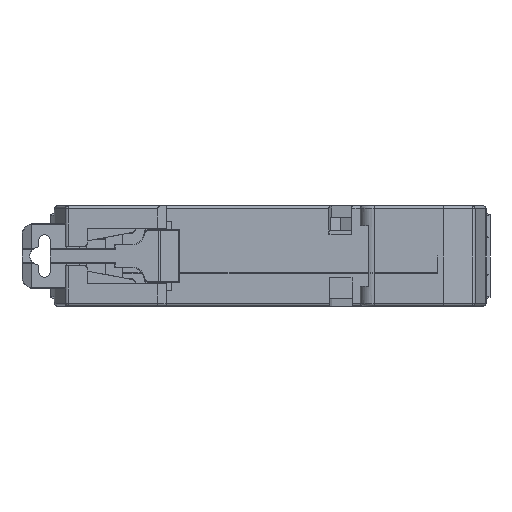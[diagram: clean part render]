
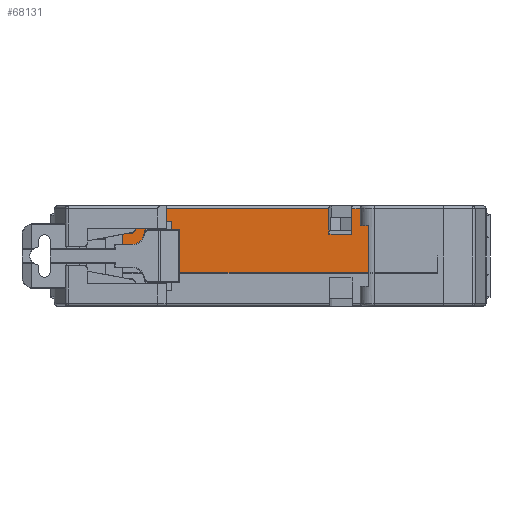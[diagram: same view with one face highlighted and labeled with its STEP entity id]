
A CAD part, front view. The second image highlights one B-rep face of the part: STEP entity #68131.
In plain terms, the highlighted planar face has unit normal (0, -1, 0).
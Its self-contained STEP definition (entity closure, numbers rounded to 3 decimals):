
#17442=DIRECTION('',(-1.,0.,0.));
#17443=VECTOR('',#17442,35.);
#17444=CARTESIAN_POINT('',(17.5,-46.,5.9));
#17445=LINE('',#17444,#17443);
#17558=DIRECTION('',(-1.,0.,0.));
#17559=VECTOR('',#17558,3.533);
#17560=CARTESIAN_POINT('',(-17.5,-46.,15.1));
#17561=LINE('',#17560,#17559);
#17562=CARTESIAN_POINT('',(-21.033,-46.,14.1));
#17563=DIRECTION('',(0.,1.,0.));
#17564=DIRECTION('',(-0.966,0.,0.259));
#17565=AXIS2_PLACEMENT_3D('',#17562,#17563,#17564);
#17567=DIRECTION('',(-0.259,0.,-0.966));
#17568=VECTOR('',#17567,1.943);
#17569=CARTESIAN_POINT('',(-21.999,-46.,
14.359));
#17570=LINE('',#17569,#17568);
#17571=CARTESIAN_POINT('',(-24.433,-46.,13.));
#17572=DIRECTION('',(0.,-1.,0.));
#17573=DIRECTION('',(0.,0.,-1.));
#17574=AXIS2_PLACEMENT_3D('',#17571,#17572,#17573);
#17576=DIRECTION('',(-1.,0.,0.));
#17577=VECTOR('',#17576,1.787);
#17578=CARTESIAN_POINT('',(-24.433,-46.,11.));
#17579=LINE('',#17578,#17577);
#17580=DIRECTION('',(0.,0.,1.));
#17581=VECTOR('',#17580,1.764);
#17582=CARTESIAN_POINT('',(-26.22,-46.,11.));
#17583=LINE('',#17582,#17581);
#17584=DIRECTION('',(0.983,0.,0.186));
#17585=VECTOR('',#17584,0.733);
#17586=CARTESIAN_POINT('',(-26.22,-46.,12.764));
#17587=LINE('',#17586,#17585);
#17588=DIRECTION('',(1.,0.,0.));
#17589=VECTOR('',#17588,0.668);
#17590=CARTESIAN_POINT('',(-25.5,-46.,12.9));
#17591=LINE('',#17590,#17589);
#17592=CARTESIAN_POINT('',(-24.832,-46.,13.9));
#17593=DIRECTION('',(0.,1.,0.));
#17594=DIRECTION('',(0.966,0.,-0.259));
#17595=AXIS2_PLACEMENT_3D('',#17592,#17593,#17594);
#17597=DIRECTION('',(0.259,0.,0.966));
#17598=VECTOR('',#17597,2.903);
#17599=CARTESIAN_POINT('',(-23.866,-46.,
13.641));
#17600=LINE('',#17599,#17598);
#17601=DIRECTION('',(-0.819,0.,-0.574));
#17602=VECTOR('',#17601,0.421);
#17603=CARTESIAN_POINT('',(-22.77,-46.,16.687));
#17604=LINE('',#17603,#17602);
#17605=DIRECTION('',(-0.921,0.,0.391));
#17606=VECTOR('',#17605,0.782);
#17607=CARTESIAN_POINT('',(-22.05,-46.,16.381));
#17608=LINE('',#17607,#17606);
#17609=DIRECTION('',(0.,0.,1.));
#17610=VECTOR('',#17609,1.081);
#17611=CARTESIAN_POINT('',(-22.05,-46.,15.3));
#17612=LINE('',#17611,#17610);
#17613=DIRECTION('',(-1.,0.,0.));
#17614=VECTOR('',#17613,2.4);
#17615=CARTESIAN_POINT('',(-19.65,-46.,15.3));
#17616=LINE('',#17615,#17614);
#17617=DIRECTION('',(1.,0.,0.));
#17618=VECTOR('',#17617,28.932);
#17619=CARTESIAN_POINT('',(-18.5,-46.,17.3));
#17620=LINE('',#17619,#17618);
#17621=DIRECTION('',(0.,0.,-1.));
#17622=VECTOR('',#17621,4.5);
#17623=CARTESIAN_POINT('',(10.432,-46.,17.3));
#17624=LINE('',#17623,#17622);
#17625=DIRECTION('',(1.,0.,0.));
#17626=VECTOR('',#17625,4.062);
#17627=CARTESIAN_POINT('',(10.432,-46.,12.8));
#17628=LINE('',#17627,#17626);
#17629=DIRECTION('',(0.,0.,-1.));
#17630=VECTOR('',#17629,4.5);
#17631=CARTESIAN_POINT('',(14.494,-46.,17.3));
#17632=LINE('',#17631,#17630);
#17633=DIRECTION('',(1.,0.,0.));
#17634=VECTOR('',#17633,3.006);
#17635=CARTESIAN_POINT('',(14.494,-46.,17.3));
#17636=LINE('',#17635,#17634);
#17637=DIRECTION('',(0.,0.,-1.));
#17638=VECTOR('',#17637,11.4);
#17639=CARTESIAN_POINT('',(17.5,-46.,17.3));
#17640=LINE('',#17639,#17638);
#17641=DIRECTION('',(0.,0.,1.));
#17642=VECTOR('',#17641,9.2);
#17643=CARTESIAN_POINT('',(-17.5,-46.,5.9));
#17644=LINE('',#17643,#17642);
#19620=DIRECTION('',(-0.707,0.,-0.707));
#19621=VECTOR('',#19620,1.626);
#19622=CARTESIAN_POINT('',(-18.5,-46.,16.45));
#19623=LINE('',#19622,#19621);
#19675=CARTESIAN_POINT('',(10.432,-46.,17.3));
#19845=CARTESIAN_POINT('',(14.494,-46.,17.3));
#19953=DIRECTION('',(0.,0.,-1.));
#19954=VECTOR('',#19953,0.85);
#19955=CARTESIAN_POINT('',(-18.5,-46.,17.3));
#19956=LINE('',#19955,#19954);
#41934=CARTESIAN_POINT('',(17.5,-46.,5.9));
#41935=VERTEX_POINT('',#41934);
#42208=CARTESIAN_POINT('',(10.432,-46.,12.8));
#42209=CARTESIAN_POINT('',(14.494,-46.,12.8));
#42210=VERTEX_POINT('',#42208);
#42211=VERTEX_POINT('',#42209);
#42601=VERTEX_POINT('',#19675);
#42602=CARTESIAN_POINT('',(-18.5,-46.,17.3));
#42603=VERTEX_POINT('',#42602);
#42618=VERTEX_POINT('',#19845);
#42622=CARTESIAN_POINT('',(17.5,-46.,17.3));
#42623=VERTEX_POINT('',#42622);
#42713=CARTESIAN_POINT('',(-19.65,-46.,15.3));
#42715=VERTEX_POINT('',#42713);
#42718=CARTESIAN_POINT('',(-18.5,-46.,16.45));
#42719=VERTEX_POINT('',#42718);
#42720=CARTESIAN_POINT('',(-22.05,-46.,15.3));
#42721=VERTEX_POINT('',#42720);
#43012=CARTESIAN_POINT('',(-22.05,-46.,16.381));
#43013=VERTEX_POINT('',#43012);
#43014=CARTESIAN_POINT('',(-22.77,-46.,16.687));
#43015=VERTEX_POINT('',#43014);
#47180=CARTESIAN_POINT('',(-17.5,-46.,15.1));
#47181=CARTESIAN_POINT('',(-21.033,-46.,15.1));
#47182=VERTEX_POINT('',#47180);
#47183=VERTEX_POINT('',#47181);
#47184=CARTESIAN_POINT('',(-21.999,-46.,
14.359));
#47185=CARTESIAN_POINT('',(-22.501,-46.,
12.482));
#47186=VERTEX_POINT('',#47184);
#47187=VERTEX_POINT('',#47185);
#47188=CARTESIAN_POINT('',(-24.433,-46.,11.));
#47189=CARTESIAN_POINT('',(-26.22,-46.,11.));
#47190=VERTEX_POINT('',#47188);
#47191=VERTEX_POINT('',#47189);
#47196=CARTESIAN_POINT('',(-26.22,-46.,12.764));
#47197=CARTESIAN_POINT('',(-25.5,-46.,12.9));
#47198=VERTEX_POINT('',#47196);
#47199=VERTEX_POINT('',#47197);
#47200=CARTESIAN_POINT('',(-24.832,-46.,12.9));
#47201=VERTEX_POINT('',#47200);
#47202=CARTESIAN_POINT('',(-23.866,-46.,
13.641));
#47203=CARTESIAN_POINT('',(-23.115,-46.,
16.445));
#47204=VERTEX_POINT('',#47202);
#47205=VERTEX_POINT('',#47203);
#47214=CARTESIAN_POINT('',(-17.5,-46.,5.9));
#47215=VERTEX_POINT('',#47214);
#68079=CARTESIAN_POINT('',(17.5,-46.,17.8));
#68080=DIRECTION('',(0.,-1.,0.));
#68081=DIRECTION('',(-1.,0.,0.));
#68082=AXIS2_PLACEMENT_3D('',#68079,#68080,#68081);
#68083=PLANE('',#68082);
#68085=ORIENTED_EDGE('',*,*,#68084,.T.);
#68087=ORIENTED_EDGE('',*,*,#68086,.F.);
#68089=ORIENTED_EDGE('',*,*,#68088,.T.);
#68091=ORIENTED_EDGE('',*,*,#68090,.F.);
#68093=ORIENTED_EDGE('',*,*,#68092,.T.);
#68094=ORIENTED_EDGE('',*,*,#67258,.T.);
#68096=ORIENTED_EDGE('',*,*,#68095,.T.);
#68098=ORIENTED_EDGE('',*,*,#68097,.T.);
#68100=ORIENTED_EDGE('',*,*,#68099,.F.);
#68102=ORIENTED_EDGE('',*,*,#68101,.T.);
#68104=ORIENTED_EDGE('',*,*,#68103,.F.);
#68106=ORIENTED_EDGE('',*,*,#68105,.F.);
#68108=ORIENTED_EDGE('',*,*,#68107,.F.);
#68110=ORIENTED_EDGE('',*,*,#68109,.F.);
#68112=ORIENTED_EDGE('',*,*,#68111,.F.);
#68114=ORIENTED_EDGE('',*,*,#68113,.F.);
#68116=ORIENTED_EDGE('',*,*,#68115,.T.);
#68118=ORIENTED_EDGE('',*,*,#68117,.T.);
#68120=ORIENTED_EDGE('',*,*,#68119,.T.);
#68122=ORIENTED_EDGE('',*,*,#68121,.F.);
#68124=ORIENTED_EDGE('',*,*,#68123,.T.);
#68126=ORIENTED_EDGE('',*,*,#68125,.T.);
#68127=ORIENTED_EDGE('',*,*,#67964,.T.);
#68128=ORIENTED_EDGE('',*,*,#51243,.T.);
#68129=EDGE_LOOP('',(#68085,#68087,#68089,#68091,#68093,#68094,#68096,#68098,
#68100,#68102,#68104,#68106,#68108,#68110,#68112,#68114,#68116,#68118,#68120,
#68122,#68124,#68126,#68127,#68128));
#68130=FACE_OUTER_BOUND('',#68129,.F.);
#68131=ADVANCED_FACE('',(#68130),#68083,.T.);
#17566=CIRCLE('',#17565,1.);
#17575=CIRCLE('',#17574,2.);
#17596=CIRCLE('',#17595,1.);
#51243=EDGE_CURVE('',#47215,#47182,#17644,.T.);
#67258=EDGE_CURVE('',#47191,#47198,#17583,.T.);
#67964=EDGE_CURVE('',#41935,#47215,#17445,.T.);
#68084=EDGE_CURVE('',#47182,#47183,#17561,.T.);
#68086=EDGE_CURVE('',#47186,#47183,#17566,.T.);
#68088=EDGE_CURVE('',#47186,#47187,#17570,.T.);
#68090=EDGE_CURVE('',#47190,#47187,#17575,.T.);
#68092=EDGE_CURVE('',#47190,#47191,#17579,.T.);
#68095=EDGE_CURVE('',#47198,#47199,#17587,.T.);
#68097=EDGE_CURVE('',#47199,#47201,#17591,.T.);
#68099=EDGE_CURVE('',#47204,#47201,#17596,.T.);
#68101=EDGE_CURVE('',#47204,#47205,#17600,.T.);
#68103=EDGE_CURVE('',#43015,#47205,#17604,.T.);
#68105=EDGE_CURVE('',#43013,#43015,#17608,.T.);
#68107=EDGE_CURVE('',#42721,#43013,#17612,.T.);
#68109=EDGE_CURVE('',#42715,#42721,#17616,.T.);
#68111=EDGE_CURVE('',#42719,#42715,#19623,.T.);
#68113=EDGE_CURVE('',#42603,#42719,#19956,.T.);
#68115=EDGE_CURVE('',#42603,#42601,#17620,.T.);
#68117=EDGE_CURVE('',#42601,#42210,#17624,.T.);
#68119=EDGE_CURVE('',#42210,#42211,#17628,.T.);
#68121=EDGE_CURVE('',#42618,#42211,#17632,.T.);
#68123=EDGE_CURVE('',#42618,#42623,#17636,.T.);
#68125=EDGE_CURVE('',#42623,#41935,#17640,.T.);
